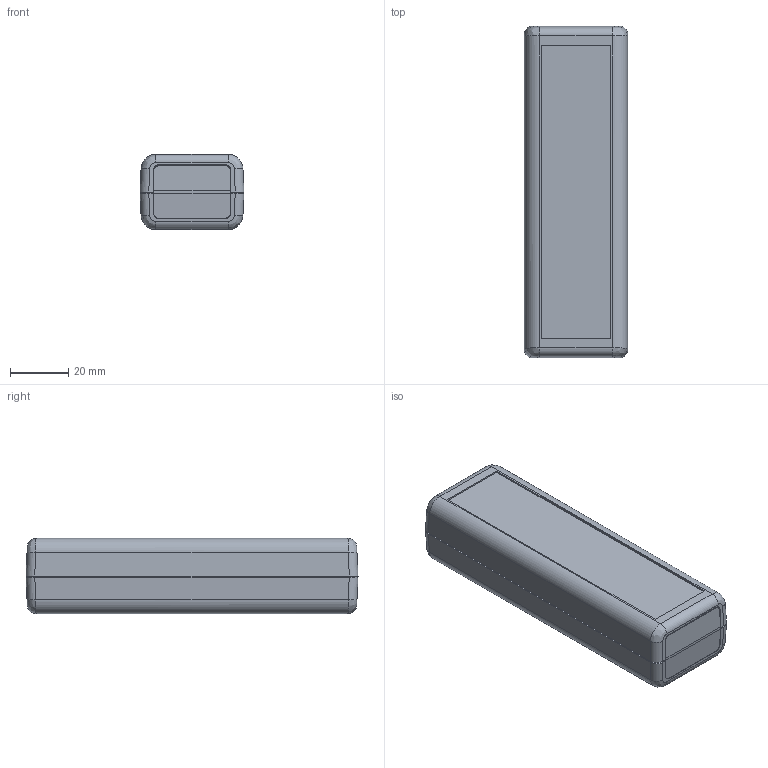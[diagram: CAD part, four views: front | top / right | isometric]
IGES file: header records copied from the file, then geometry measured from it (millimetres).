
Global section: file name: 1593D.iam; native system: Autodesk Inventor 2016; preprocessor: unknown; author: MBeerman; date: 20160425.153539; units: millimetre
Bounding box: 35.7 x 114 x 25.8 mm (x, y, z)
Volume: 43237.2 mm3; surface area: 40299.6 mm2
Topology: 9 solids, 9 shells, 545 faces, 1439 edges, 968 vertices
Faces by surface type: plane 311, bspline 92, revolution 68, cylinder 48, cone 24, sphere 2
Full cylindrical faces by diameter (mm): 2.845 x2
